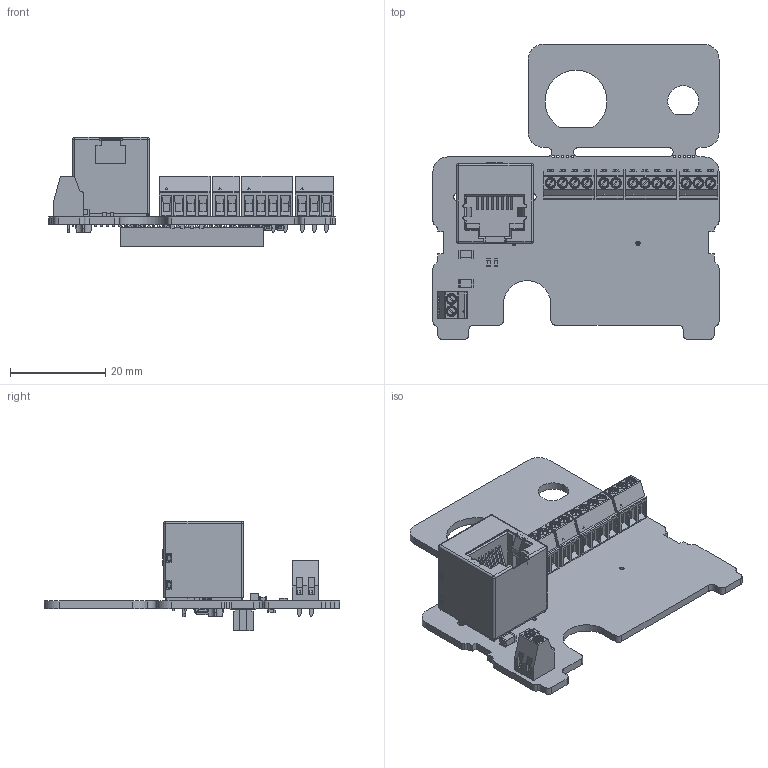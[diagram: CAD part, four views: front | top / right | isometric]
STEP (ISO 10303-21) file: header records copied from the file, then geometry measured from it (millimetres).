
FILE_DESCRIPTION(('KiCad electronic assembly'),'2;1');
FILE_NAME('RR-Mini-Conn-OEM 3D Rev1A.step','2024-08-21T16:09:15',( 'Pcbnew'),('Kicad'),'Open CASCADE STEP processor 7.8', 'KiCad to STEP converter','Unknown');
FILE_SCHEMA(('AUTOMOTIVE_DESIGN { 1 0 10303 214 1 1 1 1 }'));
Length unit declared in the file: millimetre
Products named in the file (20): RR-Mini-Conn-OEM 3D Rev1A 1; DG308-2.54-02P-14-00AH; DG308-2.54-04P-14-00AH; C_0603_1608Metric; C_1206_3216Metric; DG308-2.54-03P-14-00AH; R_1206_3216Metric; TE-2301995-2-RJ45-VERT; C-5-2301995-2; D_SOD-123; D_SOD_123; Molex 791091014; 791091014; rr-mini-conn-oem_PCB
Assembly tree (29 placements, depth 3):
  RR-Mini-Conn-OEM 3D Rev1A 1
    DG308-2.54-02P-14-00AH  x2
      DG308-2.54-02P-14-00AH
    DG308-2.54-04P-14-00AH  x2
      DG308-2.54-04P-14-00AH
    C_0603_1608Metric  x6
      C_0603_1608Metric
    C_1206_3216Metric
      C_1206_3216Metric
    DG308-2.54-03P-14-00AH
      DG308-2.54-03P-14-00AH
    R_1206_3216Metric
      R_1206_3216Metric
    TE-2301995-2-RJ45-VERT
      C-5-2301995-2
    D_SOD-123  x4
      D_SOD_123
    Molex 791091014
      791091014
    rr-mini-conn-oem_PCB
Bounding box: 60 x 61.91 x 23.02 mm (x, y, z)
Volume: 9685.2 mm3; surface area: 12732.4 mm2
Topology: 20 solids, 20 shells, 5118 faces, 13923 edges, 9215 vertices
Faces by surface type: plane 3369, bspline 1084, cylinder 582, torus 79, sphere 4
Full cylindrical faces by diameter (mm): 0.5 x10, 0.89 x10, 1 x15, 1.57 x2, 3.2 x2
Entity records: 153782 total; most frequent: CARTESIAN_POINT 57409, ORIENTED_EDGE 21132, DIRECTION 16966, EDGE_CURVE 10566, LINE 8306, VECTOR 8306, VERTEX_POINT 6871, AXIS2_PLACEMENT_3D 4330
